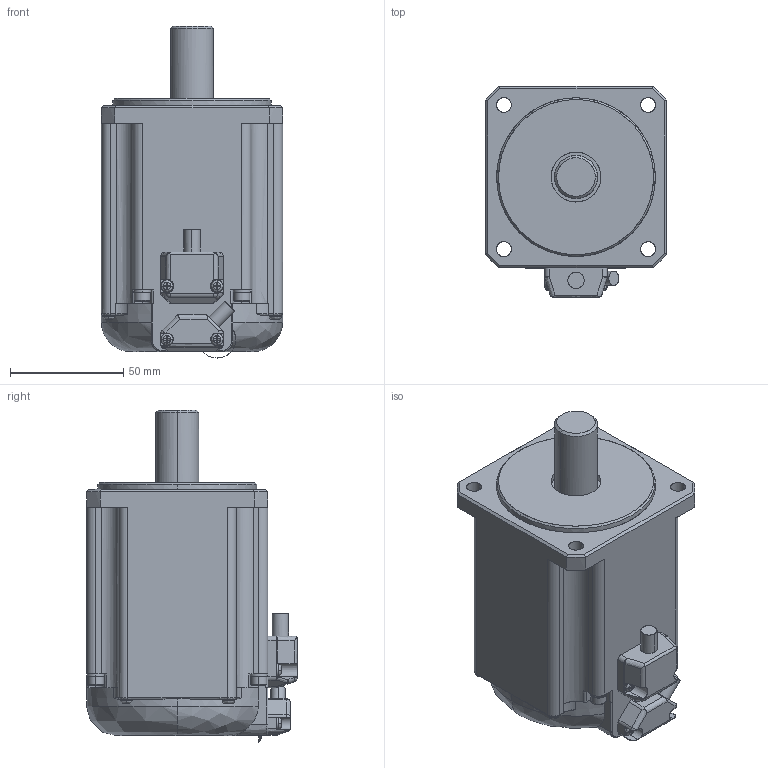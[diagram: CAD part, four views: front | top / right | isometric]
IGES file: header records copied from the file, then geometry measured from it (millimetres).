
Start section: SolidWorks IGES file using analytic representation for surfaces
Global section: file name: C:\Users\render\Documents\CAD Files\TamagawaMotors\TBL-iII-Series-14.5~80\TS4614\TS4614-N1000.IGS; native system: SolidWorks 2009; preprocessor: SolidWorks 2009; author: render; date: 100804.103520; units: millimetre
Bounding box: 80 x 93 x 146.54 mm (x, y, z)
Surface area: 48961.4 mm2 (no closed solid volume)
Topology: 0 solids, 0 shells, 581 faces, 4580 edges, 4559 vertices
Faces by surface type: bspline 332, revolution 249
